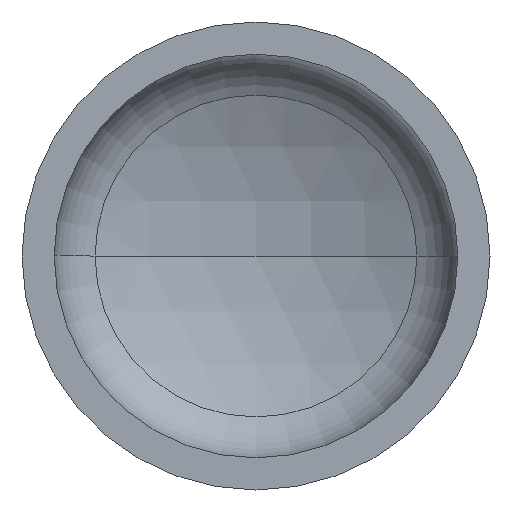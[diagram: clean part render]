
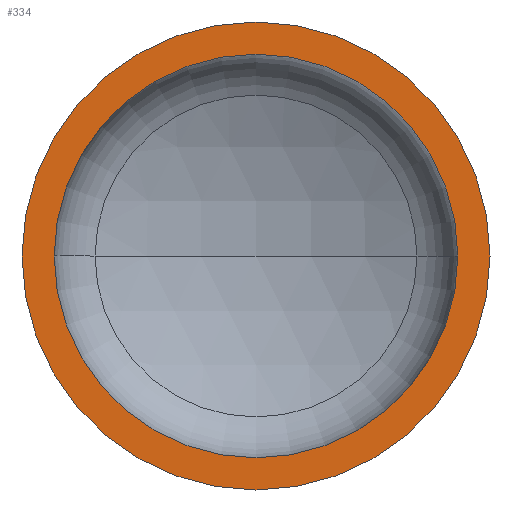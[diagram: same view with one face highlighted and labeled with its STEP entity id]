
A CAD part, front view. The second image highlights one B-rep face of the part: STEP entity #334.
In plain terms, the highlighted planar face has unit normal (0, -1, 0).
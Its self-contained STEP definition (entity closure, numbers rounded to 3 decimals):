
#3 = VERTEX_POINT ( 'NONE', #238 ) ;
#15 = AXIS2_PLACEMENT_3D ( 'NONE', #338, #180, #288 ) ;
#16 = EDGE_LOOP ( 'NONE', ( #133, #72 ) ) ;
#20 = ORIENTED_EDGE ( 'NONE', *, *, #365, .F. ) ;
#21 = DIRECTION ( 'NONE',  ( 1., 0., 0. ) ) ;
#49 = AXIS2_PLACEMENT_3D ( 'NONE', #141, #206, #264 ) ;
#56 = EDGE_LOOP ( 'NONE', ( #153, #20 ) ) ;
#62 = VERTEX_POINT ( 'NONE', #210 ) ;
#67 = AXIS2_PLACEMENT_3D ( 'NONE', #388, #78, #125 ) ;
#72 = ORIENTED_EDGE ( 'NONE', *, *, #225, .T. ) ;
#74 = PLANE ( 'NONE',  #67 ) ;
#78 = DIRECTION ( 'NONE',  ( 0., 1., 0. ) ) ;
#85 = VERTEX_POINT ( 'NONE', #233 ) ;
#125 = DIRECTION ( 'NONE',  ( -1., 0., 0. ) ) ;
#133 = ORIENTED_EDGE ( 'NONE', *, *, #386, .T. ) ;
#135 = VERTEX_POINT ( 'NONE', #223 ) ;
#141 = CARTESIAN_POINT ( 'NONE',  ( 0., 0., 0. ) ) ;
#153 = ORIENTED_EDGE ( 'NONE', *, *, #232, .F. ) ;
#160 = AXIS2_PLACEMENT_3D ( 'NONE', #395, #265, #21 ) ;
#163 = AXIS2_PLACEMENT_3D ( 'NONE', #193, #194, #172 ) ;
#172 = DIRECTION ( 'NONE',  ( 1., 0., 0. ) ) ;
#180 = DIRECTION ( 'NONE',  ( 0., -1., 0. ) ) ;
#193 = CARTESIAN_POINT ( 'NONE',  ( 0., 0., 0. ) ) ;
#194 = DIRECTION ( 'NONE',  ( 0., -1., 0. ) ) ;
#206 = DIRECTION ( 'NONE',  ( 0., -1., 0. ) ) ;
#210 = CARTESIAN_POINT ( 'NONE',  ( -690., 0., 0. ) ) ;
#223 = CARTESIAN_POINT ( 'NONE',  ( 800., 0., 0. ) ) ;
#225 = EDGE_CURVE ( 'NONE', #3, #135, #317, .T. ) ;
#232 = EDGE_CURVE ( 'NONE', #85, #62, #270, .T. ) ;
#233 = CARTESIAN_POINT ( 'NONE',  ( 690., 0., 0. ) ) ;
#238 = CARTESIAN_POINT ( 'NONE',  ( -800., 0., 0. ) ) ;
#264 = DIRECTION ( 'NONE',  ( 1., 0., 0. ) ) ;
#265 = DIRECTION ( 'NONE',  ( 0., -1., 0. ) ) ;
#270 = CIRCLE ( 'NONE', #160, 690. ) ;
#277 = CIRCLE ( 'NONE', #15, 800. ) ;
#288 = DIRECTION ( 'NONE',  ( 1., 0., 0. ) ) ;
#301 = FACE_OUTER_BOUND ( 'NONE', #16, .T. ) ;
#317 = CIRCLE ( 'NONE', #163, 800. ) ;
#334 = ADVANCED_FACE ( 'NONE', ( #409, #301 ), #74, .F. ) ;
#338 = CARTESIAN_POINT ( 'NONE',  ( 0., 0., 0. ) ) ;
#365 = EDGE_CURVE ( 'NONE', #62, #85, #404, .T. ) ;
#386 = EDGE_CURVE ( 'NONE', #135, #3, #277, .T. ) ;
#388 = CARTESIAN_POINT ( 'NONE',  ( -800., 0., 0. ) ) ;
#395 = CARTESIAN_POINT ( 'NONE',  ( 0., 0., 0. ) ) ;
#404 = CIRCLE ( 'NONE', #49, 690. ) ;
#409 = FACE_BOUND ( 'NONE', #56, .T. ) ;
